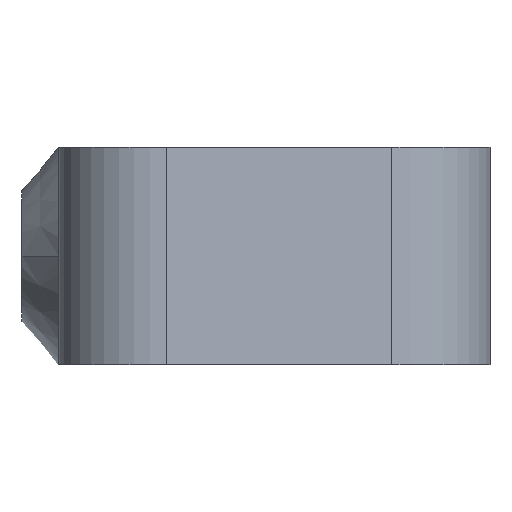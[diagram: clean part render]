
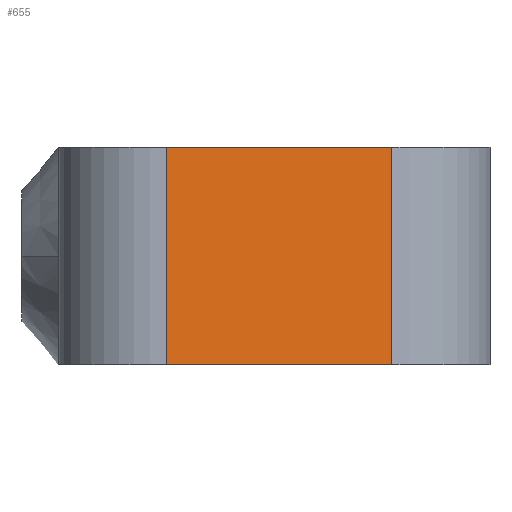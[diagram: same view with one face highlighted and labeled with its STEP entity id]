
A CAD part, left-side view. The second image highlights one B-rep face of the part: STEP entity #655.
In plain terms, the highlighted planar face has unit normal (-0.989, -0.145, 0).
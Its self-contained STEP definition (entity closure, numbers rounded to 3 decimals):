
#11 = VERTEX_POINT ( 'NONE', #365 ) ;
#33 = LINE ( 'NONE', #1083, #980 ) ;
#55 = DIRECTION ( 'NONE',  ( 0., 0., 1. ) ) ;
#89 = DIRECTION ( 'NONE',  ( -0.989, -0.146, 0. ) ) ;
#222 = CARTESIAN_POINT ( 'NONE',  ( -21.931, 14.377, -0.34 ) ) ;
#365 = CARTESIAN_POINT ( 'NONE',  ( -19.645, -1.161, 14.66 ) ) ;
#393 = VECTOR ( 'NONE', #55, 1000. ) ;
#441 = CARTESIAN_POINT ( 'NONE',  ( -21.931, 14.377, -0.34 ) ) ;
#457 = DIRECTION ( 'NONE',  ( 0.146, -0.989, 0. ) ) ;
#523 = EDGE_CURVE ( 'NONE', #1661, #11, #1851, .T. ) ;
#559 = DIRECTION ( 'NONE',  ( 0., 0., 1. ) ) ;
#648 = VERTEX_POINT ( 'NONE', #441 ) ;
#655 = ADVANCED_FACE ( 'NONE', ( #2069 ), #788, .T. ) ;
#659 = VECTOR ( 'NONE', #457, 1000. ) ;
#688 = EDGE_CURVE ( 'NONE', #648, #1661, #1168, .T. ) ;
#713 = EDGE_LOOP ( 'NONE', ( #1903, #1034, #1843, #964 ) ) ;
#720 = CARTESIAN_POINT ( 'NONE',  ( -19.645, -1.161, -0.34 ) ) ;
#788 = PLANE ( 'NONE',  #874 ) ;
#862 = LINE ( 'NONE', #222, #393 ) ;
#874 = AXIS2_PLACEMENT_3D ( 'NONE', #1648, #89, #1303 ) ;
#905 = DIRECTION ( 'NONE',  ( 0.146, -0.989, 0. ) ) ;
#913 = VECTOR ( 'NONE', #559, 1000. ) ;
#918 = CARTESIAN_POINT ( 'NONE',  ( -21.931, 14.377, 14.66 ) ) ;
#964 = ORIENTED_EDGE ( 'NONE', *, *, #523, .T. ) ;
#980 = VECTOR ( 'NONE', #905, 1000. ) ;
#1034 = ORIENTED_EDGE ( 'NONE', *, *, #1887, .F. ) ;
#1083 = CARTESIAN_POINT ( 'NONE',  ( -21.931, 14.377, 14.66 ) ) ;
#1168 = LINE ( 'NONE', #1995, #659 ) ;
#1303 = DIRECTION ( 'NONE',  ( 0.146, -0.989, 0. ) ) ;
#1648 = CARTESIAN_POINT ( 'NONE',  ( -21.931, 14.377, -0.34 ) ) ;
#1661 = VERTEX_POINT ( 'NONE', #1728 ) ;
#1728 = CARTESIAN_POINT ( 'NONE',  ( -19.645, -1.161, -0.34 ) ) ;
#1843 = ORIENTED_EDGE ( 'NONE', *, *, #688, .T. ) ;
#1851 = LINE ( 'NONE', #720, #913 ) ;
#1854 = EDGE_CURVE ( 'NONE', #1863, #11, #33, .T. ) ;
#1863 = VERTEX_POINT ( 'NONE', #918 ) ;
#1887 = EDGE_CURVE ( 'NONE', #648, #1863, #862, .T. ) ;
#1903 = ORIENTED_EDGE ( 'NONE', *, *, #1854, .F. ) ;
#1995 = CARTESIAN_POINT ( 'NONE',  ( -21.931, 14.377, -0.34 ) ) ;
#2069 = FACE_OUTER_BOUND ( 'NONE', #713, .T. ) ;
